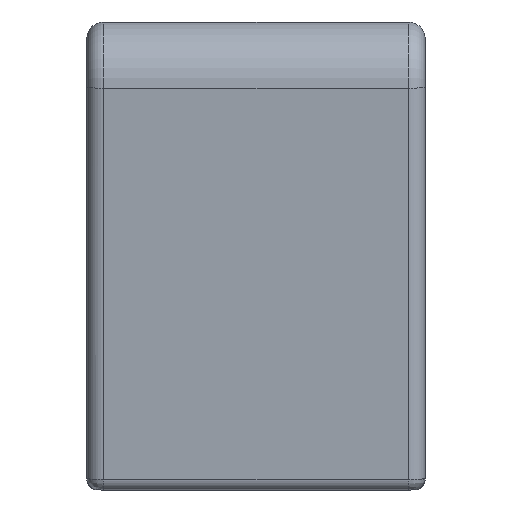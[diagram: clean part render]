
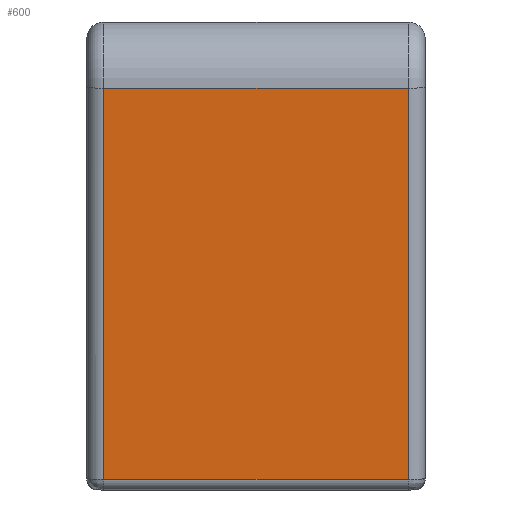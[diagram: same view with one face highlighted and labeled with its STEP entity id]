
A CAD part, left-side view. The second image highlights one B-rep face of the part: STEP entity #600.
In plain terms, the highlighted planar face has unit normal (-0.998, 0, -0.067).
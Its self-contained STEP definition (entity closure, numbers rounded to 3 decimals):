
#324 = EDGE_CURVE ( 'NONE', #4037, #4041, #644, .T. ) ;
#325 = EDGE_CURVE ( 'NONE', #4041, #4034, #652, .T. ) ;
#326 = EDGE_CURVE ( 'NONE', #4034, #4036, #672, .T. ) ;
#327 = EDGE_CURVE ( 'NONE', #4037, #4036, #685, .T. ) ;
#600 = ADVANCED_FACE ( 'NONE', ( #2169 ), #1712, .T. ) ;
#644 = LINE ( 'NONE', #4570, #646 ) ;
#646 = VECTOR ( 'NONE', #4571, 1000. ) ;
#652 = LINE ( 'NONE', #4572, #656 ) ;
#656 = VECTOR ( 'NONE', #4574, 1000. ) ;
#672 = LINE ( 'NONE', #4575, #676 ) ;
#676 = VECTOR ( 'NONE', #4576, 1000. ) ;
#685 = LINE ( 'NONE', #4577, #688 ) ;
#688 = VECTOR ( 'NONE', #4578, 1000. ) ;
#1417 = ORIENTED_EDGE ( 'NONE', *, *, #324, .T. ) ;
#1418 = ORIENTED_EDGE ( 'NONE', *, *, #325, .T. ) ;
#1419 = ORIENTED_EDGE ( 'NONE', *, *, #326, .T. ) ;
#1420 = ORIENTED_EDGE ( 'NONE', *, *, #327, .F. ) ;
#1563 = EDGE_LOOP ( 'NONE', ( #1417, #1418, #1419, #1420 ) ) ;
#1712 = PLANE ( 'NONE',  #2302 ) ;
#1713 = CARTESIAN_POINT ( 'NONE',  ( -168., 15., -7. ) ) ;
#1714 = DIRECTION ( 'NONE',  ( -0.998, 0., -0.067 ) ) ;
#1715 = DIRECTION ( 'NONE',  ( -0.067, 0., 0.998 ) ) ;
#1943 = CARTESIAN_POINT ( 'NONE',  ( -168.063, -13.5, -6.067 ) ) ;
#1945 = CARTESIAN_POINT ( 'NONE',  ( -170.388, -13.5, 28.632 ) ) ;
#1946 = CARTESIAN_POINT ( 'NONE',  ( -170.388, 13.5, 28.632 ) ) ;
#1950 = CARTESIAN_POINT ( 'NONE',  ( -168.063, 13.5, -6.067 ) ) ;
#2169 = FACE_OUTER_BOUND ( 'NONE', #1563, .T. ) ;
#2302 = AXIS2_PLACEMENT_3D ( 'NONE', #1713, #1714, #1715 ) ;
#4034 = VERTEX_POINT ( 'NONE', #1943 ) ;
#4036 = VERTEX_POINT ( 'NONE', #1945 ) ;
#4037 = VERTEX_POINT ( 'NONE', #1946 ) ;
#4041 = VERTEX_POINT ( 'NONE', #1950 ) ;
#4570 = CARTESIAN_POINT ( 'NONE',  ( -168., 13.5, -7. ) ) ;
#4571 = DIRECTION ( 'NONE',  ( 0.067, 0., -0.998 ) ) ;
#4572 = CARTESIAN_POINT ( 'NONE',  ( -168.063, 15., -6.067 ) ) ;
#4574 = DIRECTION ( 'NONE',  ( 0., -1., 0. ) ) ;
#4575 = CARTESIAN_POINT ( 'NONE',  ( -170.388, -13.5, 28.632 ) ) ;
#4576 = DIRECTION ( 'NONE',  ( -0.067, 0., 0.998 ) ) ;
#4577 = CARTESIAN_POINT ( 'NONE',  ( -170.388, 15., 28.632 ) ) ;
#4578 = DIRECTION ( 'NONE',  ( 0., -1., 0. ) ) ;
